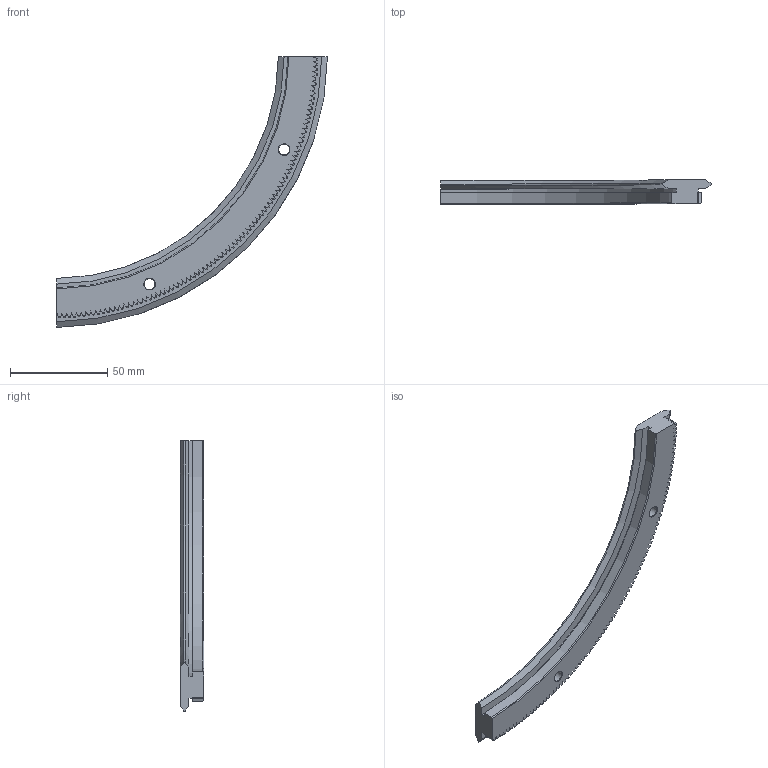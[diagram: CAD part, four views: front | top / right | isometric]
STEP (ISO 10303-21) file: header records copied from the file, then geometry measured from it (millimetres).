
FILE_DESCRIPTION( ( 'STEP AP203' ), '1' );
FILE_NAME( 'p:/temp/worker_47/temp/exporttempdir_7100_415_E16Ah/format_0/R25 255 R90 P.stp', '2021-08-30T04:12:40', ( 'License CC BY-ND 4.0' ), ( 'CADENAS' ), ' ', 'PARTsolutions', ' ' );
FILE_SCHEMA( ( 'CONFIG_CONTROL_DESIGN' ) );
Length unit declared in the file: millimetre
Products named in the file (1): _R25 255 R90 P
Bounding box: 139.09 x 12.25 x 139.09 mm (x, y, z)
Volume: 40031.2 mm3; surface area: 17338.1 mm2
Topology: 1 solids, 1 shells, 528 faces, 1402 edges, 878 vertices
Faces by surface type: plane 346, cone 90, cylinder 90, torus 2
Full cylindrical faces by diameter (mm): 5.5 x2, 9 x2
Entity records: 16462 total; most frequent: CARTESIAN_POINT 3355, ORIENTED_EDGE 2792, DIRECTION 2716, EDGE_CURVE 1396, AXIS2_PLACEMENT_3D 971, VERTEX_POINT 878, LINE 774, VECTOR 774
